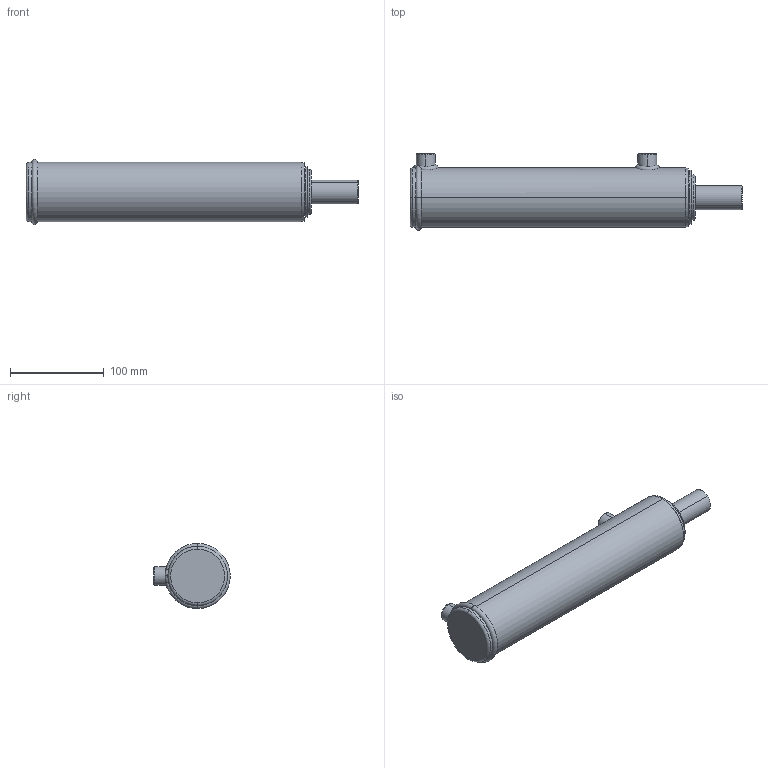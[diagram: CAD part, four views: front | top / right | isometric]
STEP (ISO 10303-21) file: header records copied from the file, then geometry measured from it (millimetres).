
FILE_DESCRIPTION (( 'STEP AP203' ), '1' );
FILE_NAME ('BL200100X203 (8).STEP', '2014-11-23T20:51:05', ( '' ), ( '' ), 'SwSTEP 2.0', 'SolidWorks 2014', '' );
FILE_SCHEMA (( 'CONFIG_CONTROL_DESIGN' ));
Length unit declared in the file: millimetre
Products named in the file (3): BL body 2_2x8; Spare_2x8; BL200100X203 (8)
Assembly tree (2 placements, depth 2):
  BL200100X203 (8)
    BL body 2_2x8
    Spare_2x8
Bounding box: 354 x 81.5 x 69.5 mm (x, y, z)
Volume: 1013577.3 mm3; surface area: 120069.7 mm2
Topology: 2 solids, 2 shells, 83 faces, 192 edges, 118 vertices
Faces by surface type: cylinder 31, plane 20, torus 17, cone 8, bspline 7
Entity records: 4855 total; most frequent: CARTESIAN_POINT 2688, DIRECTION 416, ORIENTED_EDGE 376, EDGE_CURVE 188, AXIS2_PLACEMENT_3D 179, VERTEX_POINT 118, CIRCLE 98, EDGE_LOOP 96
